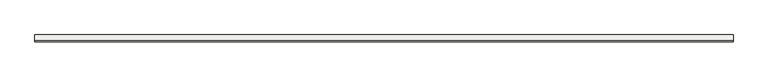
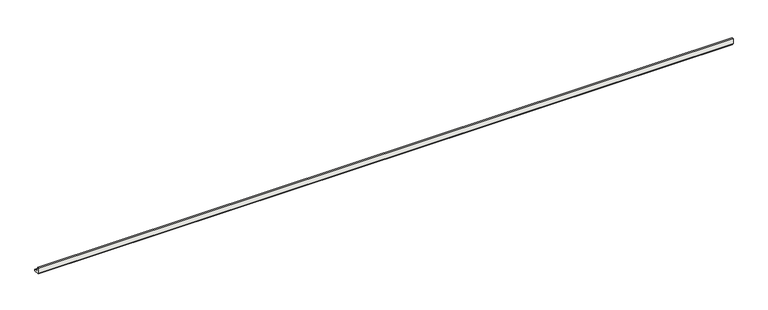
"""IFC4 building model written with IfcOpenShell, lengths in millimetres: slab geometry, ROSA GRES_188 : Pieza 188_Tresor_Bali_Anti-Slip."""

import ifcopenshell
import ifcopenshell.guid

model = None  # the IFC model being written
_history = None  # IfcOwnerHistory: only IFC2X3 demands one
_inside = {}  # id of a spatial element -> (the spatial element, [elements in it])
_under = {}  # id of a project, library or spatial element -> (it, [spatial elements below it])
_declared = {}  # id of a project -> (the project, [libraries it declares])
_typed = {}  # id of a type object -> (the type object, [elements of that type])
_made_of = {}  # id of a material, layer set ... -> (it, [elements and type objects made of it])


def new_model(schema):
    """Start an empty IFC model of exactly this schema.

    Asked for "IFC4X3", IfcOpenShell would pick the latest addendum, in which some entities
    have other attributes; the version numbers below select the first issue.
    IFC2X3 requires an IfcOwnerHistory on every rooted entity: one is made here for all.
    """
    global model, _history
    if schema == "IFC4X3":
        model = ifcopenshell.file(schema_version=(4, 3, 0, 0))
    else:
        model = ifcopenshell.file(schema=schema)
    _inside.clear()
    _under.clear()
    _declared.clear()
    _typed.clear()
    _made_of.clear()
    _history = None
    if model.schema == "IFC2X3":
        org = make("IfcOrganization", Name="unknown")
        user = make(
            "IfcPersonAndOrganization",
            ThePerson=make("IfcPerson", FamilyName="unknown"),
            TheOrganization=org,
        )
        app = make(
            "IfcApplication",
            ApplicationDeveloper=org,
            Version="unknown",
            ApplicationFullName="unknown",
            ApplicationIdentifier="unknown",
        )
        _history = make(
            "IfcOwnerHistory",
            OwningUser=user,
            OwningApplication=app,
            ChangeAction="ADDED",
            CreationDate=0,
        )
    return model


def make(cls, **values):
    """One entity of the class cls with the attributes given. An attribute that is None is left unset."""
    return model.create_entity(
        cls, **{name: value for name, value in values.items() if value is not None}
    )


def rooted(cls, **values):
    """An entity with a GlobalId (a new one), such as an element, a storey or a relation."""
    return make(cls, GlobalId=ifcopenshell.guid.new(), OwnerHistory=_history, **values)


def si_unit(unit_type, name, prefix=None):
    """IfcSIUnit, for example si_unit("LENGTHUNIT", "METRE", prefix="MILLI")."""
    return make("IfcSIUnit", UnitType=unit_type, Prefix=prefix, Name=name)


def assignment(units):
    """IfcUnitAssignment: the units of a project."""
    return None if units is None else make("IfcUnitAssignment", Units=units)


def point(xyz):
    """IfcCartesianPoint."""
    return None if xyz is None else make("IfcCartesianPoint", Coordinates=xyz)


def direction(xyz):
    """IfcDirection."""
    return None if xyz is None else make("IfcDirection", DirectionRatios=xyz)


def frame(location, z_axis=None, x_axis=None):
    """IfcAxis2Placement3D, a coordinate frame: its origin and axes. An axis left out is left unset."""
    return make(
        "IfcAxis2Placement3D",
        Location=point(location),
        Axis=direction(z_axis),
        RefDirection=direction(x_axis),
    )


def frame_2d(location, x_axis=None):
    """IfcAxis2Placement2D, a coordinate frame in the plane: its origin and x axis."""
    return make(
        "IfcAxis2Placement2D", Location=point(location), RefDirection=direction(x_axis)
    )


def origin():
    """The frame at (0, 0, 0) with its axes left unset."""
    return frame((0.0, 0.0, 0.0))


def place(relative_to, where):
    """IfcLocalPlacement: puts the frame where relative to a parent placement (None: the world)."""
    return make(
        "IfcLocalPlacement", PlacementRelTo=relative_to, RelativePlacement=where
    )


def context(
    kind, dimensions, precision=None, world=None, true_north=None, identifier=None
):
    """IfcGeometricRepresentationContext, for example the 3D "Model" context."""
    return make(
        "IfcGeometricRepresentationContext",
        ContextIdentifier=identifier,
        ContextType=kind,
        CoordinateSpaceDimension=dimensions,
        Precision=precision,
        WorldCoordinateSystem=world,
        TrueNorth=true_north,
    )


def project(units=None, contexts=None):
    """IfcProject with its units and contexts."""
    return rooted(
        "IfcProject",
        Name="project",
        RepresentationContexts=contexts,
        UnitsInContext=assignment(units),
    )


def spatial(cls, under=None, at=None, **own):
    """A site, building, storey or space (cls), placed at a placement, below another one or the project."""
    s = rooted(cls, ObjectPlacement=at, **own)
    if under is not None:
        _under.setdefault(under.id(), (under, []))[1].append(s)
    return s


def polyline(points):
    """IfcPolyline through the points."""
    return make("IfcPolyline", Points=[point(p) for p in points])


def circle_curve(where, radius):
    """IfcCircle in the frame where."""
    return make("IfcCircle", Position=where, Radius=radius)


def trimmed(basis, trim1, trim2, sense, master):
    """IfcTrimmedCurve: the piece of a basis curve between two trims."""
    return make(
        "IfcTrimmedCurve",
        BasisCurve=basis,
        Trim1=trim1,
        Trim2=trim2,
        SenseAgreement=sense,
        MasterRepresentation=master,
    )


def segment(curve, same_sense, transition):
    """IfcCompositeCurveSegment."""
    return make(
        "IfcCompositeCurveSegment",
        Transition=transition,
        SameSense=same_sense,
        ParentCurve=curve,
    )


def composite_curve(segments, self_intersect=None):
    """IfcCompositeCurve: segments joined end to end."""
    return make("IfcCompositeCurve", Segments=segments, SelfIntersect=self_intersect)


def outline(outer, holes=None, kind="AREA"):
    """IfcArbitraryClosedProfileDef: a profile drawn as a closed curve; with holes, ...WithVoids."""
    if holes is None:
        return make("IfcArbitraryClosedProfileDef", ProfileType=kind, OuterCurve=outer)
    return make(
        "IfcArbitraryProfileDefWithVoids",
        ProfileType=kind,
        OuterCurve=outer,
        InnerCurves=holes,
    )


def extrude(swept, where, along, depth):
    """IfcExtrudedAreaSolid: the profile swept, set in the frame where, extruded along a direction by depth."""
    return make(
        "IfcExtrudedAreaSolid",
        SweptArea=swept,
        Position=where,
        ExtrudedDirection=direction(along),
        Depth=depth,
    )


def shape(context_of_items, identifier, shape_type, items):
    """IfcShapeRepresentation: the items that make up one representation, for example the "Body"."""
    return make(
        "IfcShapeRepresentation",
        ContextOfItems=context_of_items,
        RepresentationIdentifier=identifier,
        RepresentationType=shape_type,
        Items=items,
    )


def source(mapping_origin, context_of_items, identifier, shape_type, items):
    """IfcRepresentationMap: a shape defined once, which mapped items show again and again."""
    return make(
        "IfcRepresentationMap",
        MappingOrigin=mapping_origin,
        MappedRepresentation=shape(context_of_items, identifier, shape_type, items),
    )


def transform(
    local_origin,
    x_axis=None,
    y_axis=None,
    z_axis=None,
    scale=None,
    scale2=None,
    scale3=None,
    uniform=True,
):
    """IfcCartesianTransformationOperator3D, or its non-uniform kind. x_axis, y_axis, z_axis: its Axis1, 2, 3."""
    if uniform:
        return make(
            "IfcCartesianTransformationOperator3D",
            Axis1=direction(x_axis),
            Axis2=direction(y_axis),
            LocalOrigin=point(local_origin),
            Scale=scale,
            Axis3=direction(z_axis),
        )
    return make(
        "IfcCartesianTransformationOperator3DnonUniform",
        Axis1=direction(x_axis),
        Axis2=direction(y_axis),
        LocalOrigin=point(local_origin),
        Scale=scale,
        Axis3=direction(z_axis),
        Scale2=scale2,
        Scale3=scale3,
    )


def mapped(mapping_source, mapping_target):
    """IfcMappedItem: shows the shape of a source again, moved by a transform."""
    return make(
        "IfcMappedItem", MappingSource=mapping_source, MappingTarget=mapping_target
    )


def made_of(thing, what):
    """Note that an element or type object is made of a material, layer set ...; save() writes the relation."""
    if what is not None:
        _made_of.setdefault(what.id(), (what, []))[1].append(thing)
    return thing


def element(
    cls,
    number,
    at=None,
    inside=None,
    cuts=None,
    type_object=None,
    material=None,
    context=None,
    identifier="Body",
    shape_type=None,
    held_by="IfcProductDefinitionShape",
    body=None,
    shapes=None,
    **own,
):
    """One element of the class cls, such as IfcWall. Its Tag is "e" and its number.

    at: its placement. inside: the storey or other place that contains it. cuts: it is an
    opening in that element (IfcRelVoidsElement). A single representation is given by context,
    identifier, shape_type and body (its items); several are given by shapes. held_by: the class
    of the entity that holds the representations. save() writes the other relations.
    """
    e = rooted(cls, Tag="e%d" % number, ObjectPlacement=at, **own)
    if body is not None:
        shapes = [shape(context, identifier, shape_type, body)]
    if shapes is not None:
        e.Representation = make(held_by, Representations=shapes)
    if inside is not None:
        _inside.setdefault(inside.id(), (inside, []))[1].append(e)
    if cuts is not None:
        rooted(
            "IfcRelVoidsElement", RelatingBuildingElement=cuts, RelatedOpeningElement=e
        )
    if type_object is not None:
        _typed.setdefault(type_object.id(), (type_object, []))[1].append(e)
    return made_of(e, material)


def aggregate(whole, parts):
    """IfcRelAggregates: a whole, such as a stair, and the parts it consists of."""
    return rooted("IfcRelAggregates", RelatingObject=whole, RelatedObjects=parts)


def save(model, path):
    """Write the relations noted so far, then the file.

    IfcRelAggregates (storeys below a building ...), IfcRelContainedInSpatialStructure (elements
    in a storey), IfcRelDefinesByType, IfcRelAssociatesMaterial and IfcRelDeclares: one each for
    every whole, place, type object, material and project.
    """
    for whole, parts in _under.values():
        aggregate(whole, parts)
    for where, things in _inside.values():
        rooted(
            "IfcRelContainedInSpatialStructure",
            RelatedElements=things,
            RelatingStructure=where,
        )
    for kind, things in _typed.values():
        rooted("IfcRelDefinesByType", RelatedObjects=things, RelatingType=kind)
    for what, things in _made_of.values():
        rooted("IfcRelAssociatesMaterial", RelatedObjects=things, RelatingMaterial=what)
    for by, libraries in _declared.values():
        rooted("IfcRelDeclares", RelatingContext=by, RelatedDefinitions=libraries)
    model.write(path)


def slab_f4dc06cf(model_context):
    return source(origin(), model_context, "Body", "SweptSolid", [
        extrude(outline(composite_curve([segment(polyline([(0.0, 8.7114978), (0.0, 40.0), (9.9734114, 40.0)]), True, "CONTINUOUS"), segment(trimmed(circle_curve(frame_2d((39.9955547, 39.9955547)), 30.0221435), [point((9.9734114, 40.0))], [point((40.0, 9.9734114))], True, "CARTESIAN"), True, "CONTINUOUS"), segment(polyline([(40.0, 9.9734114), (40.0, 0.0), (8.7114978, 0.0), (0.0, 8.7114978)]), True, "CONTINUOUS")], self_intersect=False)), frame((0.0, 0.0, 0.0), z_axis=(1.0, 0.0, 0.0), x_axis=(0.0, 1.0, 0.0)), (0.0, 0.0, 1.0), 4019.7234114),
    ])


if __name__ == "__main__":
    model = new_model("IFC4")
    model_context = context("Model", 3, world=origin())
    ifc_project = project(units=[si_unit("LENGTHUNIT", "METRE", prefix="MILLI")], contexts=[model_context])
    site = spatial("IfcSite", under=ifc_project)
    building = spatial("IfcBuilding", under=site)
    placement = place(None, origin())
    slab_shape = slab_f4dc06cf(model_context)
    element("IfcSlab", 1, ObjectType="ROSA GRES_188 : Pieza 188_Tresor_Bali_Anti-Slip", at=placement, inside=building, context=model_context, shape_type="MappedRepresentation", body=[
        mapped(slab_shape, transform((0.0, 0.0, 0.0), x_axis=(1.0, 0.0, 0.0), y_axis=(0.0, 1.0, 0.0), z_axis=(0.0, 0.0, 1.0))),
    ])
    save(model, "model.ifc")
